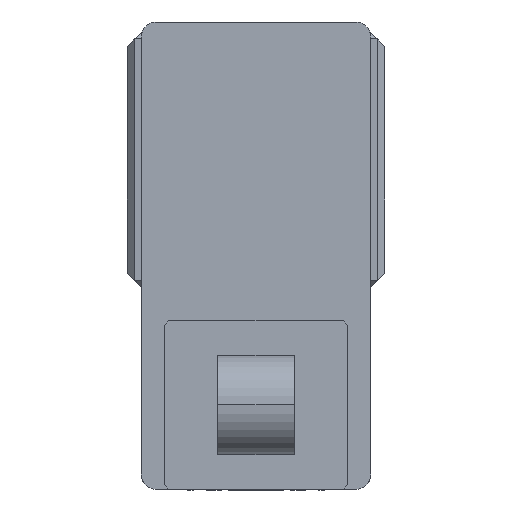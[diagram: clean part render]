
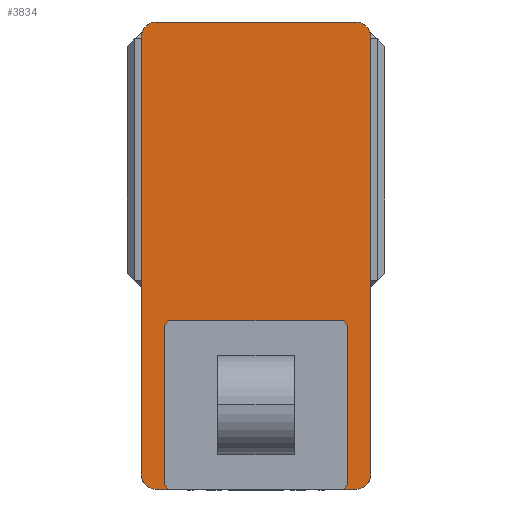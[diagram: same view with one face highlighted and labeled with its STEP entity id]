
A CAD part, left-side view. The second image highlights one B-rep face of the part: STEP entity #3834.
In plain terms, the highlighted planar face has unit normal (-1, 0, 0) as drawn and (0, 0, 1) by its records, which use the part's own axes.
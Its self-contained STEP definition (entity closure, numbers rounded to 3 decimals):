
#76 = AXIS2_PLACEMENT_3D ( 'NONE', #16830, #7387, #18422 ) ;
#903 = AXIS2_PLACEMENT_3D ( 'NONE', #11528, #2005, #13108 ) ;
#1334 = PLANE ( 'NONE',  #9302 ) ;
#1586 = DIRECTION ( 'NONE',  ( 0., 0., 1. ) ) ;
#1934 = VECTOR ( 'NONE', #13351, 1000. ) ;
#1948 = AXIS2_PLACEMENT_3D ( 'NONE', #13224, #3730, #14826 ) ;
#2005 = DIRECTION ( 'NONE',  ( 0., 0., 1. ) ) ;
#2234 = EDGE_CURVE ( 'NONE', #7583, #18154, #12454, .T. ) ;
#2282 = ORIENTED_EDGE ( 'NONE', *, *, #13717, .T. ) ;
#2923 = EDGE_CURVE ( 'NONE', #5573, #13198, #5572, .T. ) ;
#2946 = DIRECTION ( 'NONE',  ( 1., 0., 0. ) ) ;
#3331 = CIRCLE ( 'NONE', #903, 10. ) ;
#3495 = ORIENTED_EDGE ( 'NONE', *, *, #18170, .T. ) ;
#3730 = DIRECTION ( 'NONE',  ( 0., 0., 1. ) ) ;
#3776 = EDGE_CURVE ( 'NONE', #15494, #5573, #10537, .T. ) ;
#3834 = ADVANCED_FACE ( 'NONE', ( #18442 ), #1334, .T. ) ;
#4438 = LINE ( 'NONE', #17679, #16565 ) ;
#5456 = CARTESIAN_POINT ( 'NONE',  ( -75., -152.5, 105. ) ) ;
#5533 = CARTESIAN_POINT ( 'NONE',  ( 65., 152.5, 105. ) ) ;
#5572 = CIRCLE ( 'NONE', #76, 10. ) ;
#5573 = VERTEX_POINT ( 'NONE', #14980 ) ;
#6000 = LINE ( 'NONE', #9684, #13934 ) ;
#6183 = LINE ( 'NONE', #5456, #1934 ) ;
#6706 = ORIENTED_EDGE ( 'NONE', *, *, #2234, .T. ) ;
#7061 = ORIENTED_EDGE ( 'NONE', *, *, #20046, .T. ) ;
#7322 = CIRCLE ( 'NONE', #17901, 10. ) ;
#7387 = DIRECTION ( 'NONE',  ( 0., 0., 1. ) ) ;
#7583 = VERTEX_POINT ( 'NONE', #10261 ) ;
#7664 = CARTESIAN_POINT ( 'NONE',  ( 75., 152.5, 105. ) ) ;
#7840 = VERTEX_POINT ( 'NONE', #16967 ) ;
#8000 = CARTESIAN_POINT ( 'NONE',  ( -65., 152.5, 105. ) ) ;
#9302 = AXIS2_PLACEMENT_3D ( 'NONE', #15563, #12437, #2946 ) ;
#9546 = ORIENTED_EDGE ( 'NONE', *, *, #13148, .T. ) ;
#9684 = CARTESIAN_POINT ( 'NONE',  ( -75., 152.5, 105. ) ) ;
#10261 = CARTESIAN_POINT ( 'NONE',  ( -75., -142.5, 105. ) ) ;
#10537 = LINE ( 'NONE', #7664, #14752 ) ;
#11040 = ORIENTED_EDGE ( 'NONE', *, *, #2923, .T. ) ;
#11094 = CARTESIAN_POINT ( 'NONE',  ( -65., 142.5, 105. ) ) ;
#11259 = VERTEX_POINT ( 'NONE', #8000 ) ;
#11298 = DIRECTION ( 'NONE',  ( 0., -1., 0. ) ) ;
#11528 = CARTESIAN_POINT ( 'NONE',  ( 65., -142.5, 105. ) ) ;
#12437 = DIRECTION ( 'NONE',  ( 0., 0., 1. ) ) ;
#12454 = CIRCLE ( 'NONE', #1948, 10. ) ;
#12685 = DIRECTION ( 'NONE',  ( 1., 0., 0. ) ) ;
#12692 = ORIENTED_EDGE ( 'NONE', *, *, #17775, .T. ) ;
#12988 = DIRECTION ( 'NONE',  ( -1., 0., 0. ) ) ;
#13108 = DIRECTION ( 'NONE',  ( 1., 0., 0. ) ) ;
#13148 = EDGE_CURVE ( 'NONE', #18154, #7840, #6183, .T. ) ;
#13198 = VERTEX_POINT ( 'NONE', #5533 ) ;
#13224 = CARTESIAN_POINT ( 'NONE',  ( -65., -142.5, 105. ) ) ;
#13351 = DIRECTION ( 'NONE',  ( 1., 0., 0. ) ) ;
#13717 = EDGE_CURVE ( 'NONE', #13198, #11259, #4438, .T. ) ;
#13934 = VECTOR ( 'NONE', #11298, 1000. ) ;
#14304 = VERTEX_POINT ( 'NONE', #15792 ) ;
#14463 = ORIENTED_EDGE ( 'NONE', *, *, #3776, .T. ) ;
#14752 = VECTOR ( 'NONE', #18730, 1000. ) ;
#14826 = DIRECTION ( 'NONE',  ( 1., 0., 0. ) ) ;
#14980 = CARTESIAN_POINT ( 'NONE',  ( 75., 142.5, 105. ) ) ;
#15494 = VERTEX_POINT ( 'NONE', #20474 ) ;
#15563 = CARTESIAN_POINT ( 'NONE',  ( 0., 0., 105. ) ) ;
#15792 = CARTESIAN_POINT ( 'NONE',  ( -75., 142.5, 105. ) ) ;
#16565 = VECTOR ( 'NONE', #12988, 1000. ) ;
#16830 = CARTESIAN_POINT ( 'NONE',  ( 65., 142.5, 105. ) ) ;
#16967 = CARTESIAN_POINT ( 'NONE',  ( 65., -152.5, 105. ) ) ;
#17383 = CARTESIAN_POINT ( 'NONE',  ( -65., -152.5, 105. ) ) ;
#17679 = CARTESIAN_POINT ( 'NONE',  ( -75., 152.5, 105. ) ) ;
#17775 = EDGE_CURVE ( 'NONE', #7840, #15494, #3331, .T. ) ;
#17901 = AXIS2_PLACEMENT_3D ( 'NONE', #11094, #1586, #12685 ) ;
#18154 = VERTEX_POINT ( 'NONE', #17383 ) ;
#18170 = EDGE_CURVE ( 'NONE', #11259, #14304, #7322, .T. ) ;
#18422 = DIRECTION ( 'NONE',  ( 1., 0., 0. ) ) ;
#18442 = FACE_OUTER_BOUND ( 'NONE', #18728, .T. ) ;
#18728 = EDGE_LOOP ( 'NONE', ( #9546, #12692, #14463, #11040, #2282, #3495, #7061, #6706 ) ) ;
#18730 = DIRECTION ( 'NONE',  ( 0., 1., 0. ) ) ;
#20046 = EDGE_CURVE ( 'NONE', #14304, #7583, #6000, .T. ) ;
#20474 = CARTESIAN_POINT ( 'NONE',  ( 75., -142.5, 105. ) ) ;
